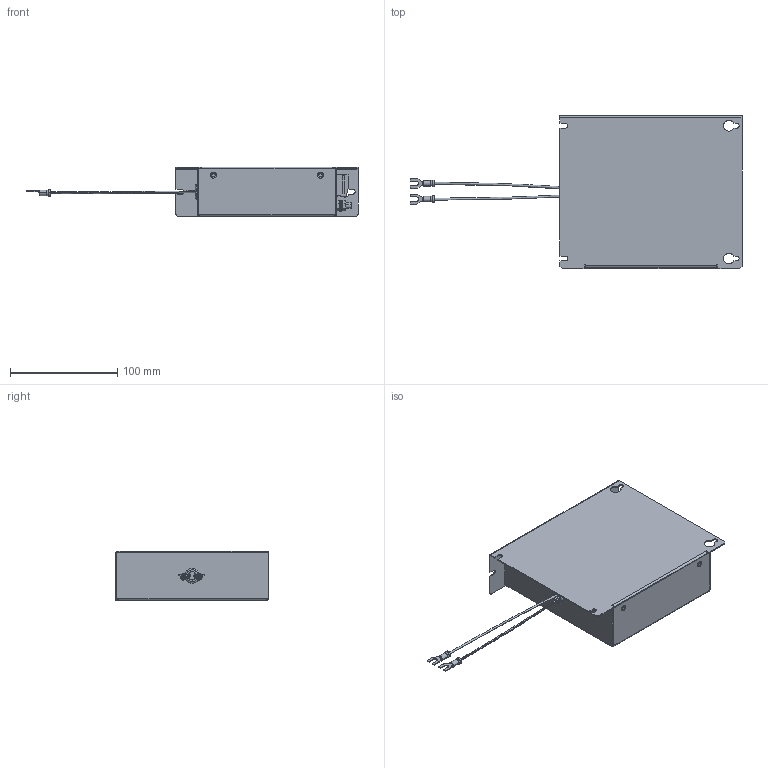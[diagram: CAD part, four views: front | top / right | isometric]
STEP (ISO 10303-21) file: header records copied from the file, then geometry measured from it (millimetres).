
FILE_DESCRIPTION (( 'STEP AP214' ), '1' );
FILE_NAME ('EFR-EFF-1C-25A.STEP', '2026-04-07T13:40:53', ( '' ), ( '' ), 'SwSTEP 2.0', 'SolidWorks 2025', '' );
FILE_SCHEMA (( 'AUTOMOTIVE_DESIGN' ));
Length unit declared in the file: millimetre
Products named in the file (15): CNS 9671 - M5 x 16; MPT410; gromet 8 mm; 1_2; 1000-507 B; ISO 7091 - ST 5 - 100 HV; BS 4464 - 5.35_1; 1000-507_1; EFR-EFF-1C-25A; #8 Terminal Spade 16 - 14 AWG; 1000-507.Harness2_1; IFI 509 - 41; ISO 4036 - M5; 1C R2.0(2); 1000-507.Harness2
Assembly tree (24 placements, depth 4):
  EFR-EFF-1C-25A
    1C R2.0(2)
      1000-507.Harness2
        1000-507.Harness2_1
      1000-507 B
      MPT410  x2
      CNS 9671 - M5 x 16
      1000-507_1
      1_2  x4
      #8 Terminal Spade 16 - 14 AWG  x2
      IFI 509 - 41  x4
      gromet 8 mm
      ISO 4036 - M5  x2
      ISO 7091 - ST 5 - 100 HV  x2
      BS 4464 - 5.35_1
Bounding box: 310 x 143.37 x 46.46 mm (x, y, z)
Volume: 77423.3 mm3; surface area: 152456.1 mm2
Topology: 23 solids, 54 shells, 1567 faces, 4047 edges, 2620 vertices
Faces by surface type: plane 1201, cylinder 226, cone 74, bspline 44, torus 20, sphere 2
Full cylindrical faces by diameter (mm): 4.8 x4
Entity records: 21868 total; most frequent: CARTESIAN_POINT 5461, ORIENTED_EDGE 3416, DIRECTION 3040, EDGE_CURVE 1712, VERTEX_POINT 1103, VECTOR 1094, LINE 1094, AXIS2_PLACEMENT_3D 973
